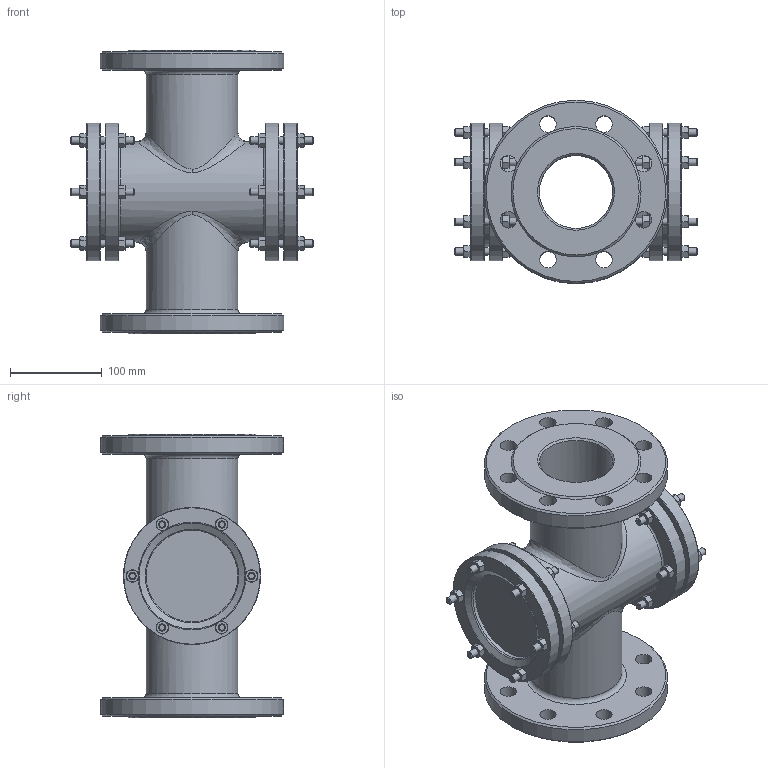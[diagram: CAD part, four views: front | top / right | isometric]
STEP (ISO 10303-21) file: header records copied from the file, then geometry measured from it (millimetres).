
FILE_DESCRIPTION(('STEP AP242'), '1');
FILE_NAME('SG2-34G-F Ñòåêëî ñìîòðîâîå DN.ru Äó80 Ðó16', '', ('UNSPECIFIED'), ('UNSPECIFIED'), 'C3D Converter', 'C3D Toolkit', '');
FILE_SCHEMA(('AP242_MANAGED_MODEL_BASED_3D_ENGINEERING_MIM_LF { 1 0 10303 442 1 1 4 }'));
Length unit declared in the file: millimetre
Products named in the file (1): SG2-34G-F
Bounding box: 265.5 x 200 x 310 mm (x, y, z)
Volume: 2540254.3 mm3; surface area: 472614.9 mm2
Topology: 1 solids, 1 shells, 703 faces, 1644 edges, 985 vertices
Faces by surface type: cone 322, plane 259, cylinder 75, bspline 31, torus 16
Full cylindrical faces by diameter (mm): 8 x36, 18 x16, 80 x2, 100 x5, 110 x1, 120 x2, 150 x4, 200 x2
Entity records: 37716 total; most frequent: CARTESIAN_POINT 21441, ORIENTED_EDGE 3030, DIRECTION 2826, EDGE_CURVE 1515, AXIS2_PLACEMENT_3D 1296, VERTEX_POINT 984, EDGE_LOOP 938, FACE_BOUND 802
